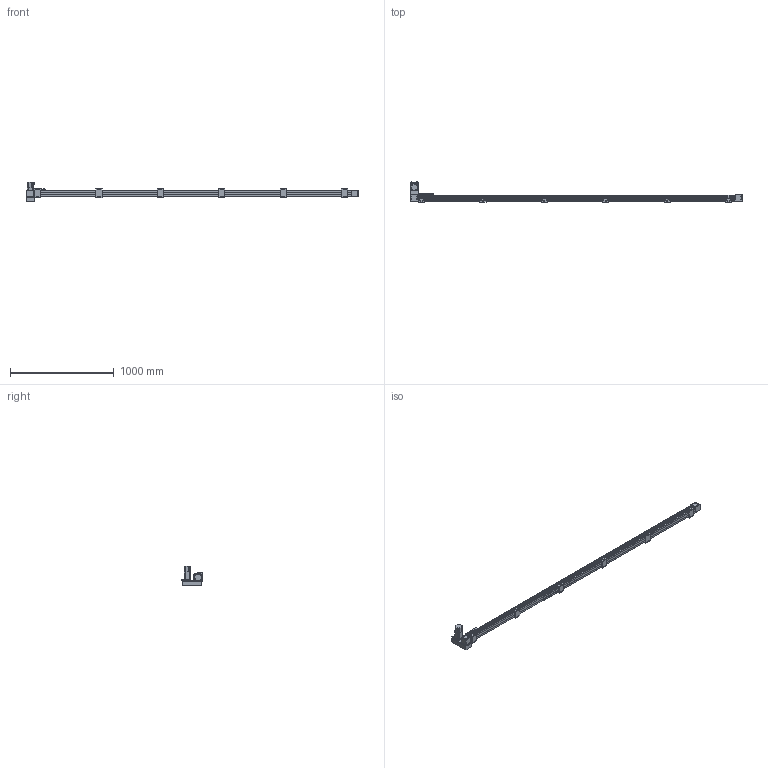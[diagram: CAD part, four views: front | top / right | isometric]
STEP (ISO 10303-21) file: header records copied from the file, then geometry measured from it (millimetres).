
FILE_DESCRIPTION(/* description */ ('STEP AP214'),/* implementation_level */ '2;1');
FILE_NAME(/* name */ 'SK60-P13-S2900-LU-T40-C1-N(0)',/* time_stamp */ '2023-04-06T04:49:06+02:00',/* author */ ('License CC BY-ND 4.0'),/* organization */ ('CADENAS'),/* preprocessor_version */ 'ST-DEVELOPER v19.3',/* originating_system */ 'PARTsolutions',/* authorisation */ ' ');
FILE_SCHEMA (('PROCESS_PLANNING_SCHEMA','AUTOMOTIVE_DESIGN {1 0 10303 214 3 1 1}'));
Length unit declared in the file: millimetre
Products named in the file (10): SK60-P13-S2900-LU-T40-C1-N(0); PSC140-sensor; SK60-S450_seat; SK60-S450-BL-C1_slider; SK60_body3; SK60_body6; SK60-BL_body2; T40-p1; SK60-LU_fb; SK60-S2900-LU-C1_body
Assembly tree (20 placements, depth 2):
  SK60-P13-S2900-LU-T40-C1-N(0)
    PSC140-sensor  x3
    SK60-S450_seat  x6
    SK60-S450-BL-C1_slider
    SK60_body3  x3
    SK60_body6  x2
    SK60-BL_body2  x2
    T40-p1
    SK60-LU_fb
    SK60-S2900-LU-C1_body
Bounding box: 3205.5 x 201 x 189.7 mm (x, y, z)
Volume: 12065752.8 mm3; surface area: 1409472.6 mm2
Topology: 20 solids, 20 shells, 986 faces, 2440 edges, 1605 vertices
Faces by surface type: plane 620, cylinder 326, cone 38, torus 2
Full cylindrical faces by diameter (mm): 2.8 x3, 3.3 x4, 4 x2, 4.5 x30, 4.6 x3, 4.917 x32, 5 x6, 5.478 x4, 5.5 x35, 6.5 x12, 7 x2, 8 x4, 8.5 x4, 9.988 x4, 10 x24, 14 x1, 47 x3, 50 x2
Entity records: 18687 total; most frequent: DIRECTION 3192, CARTESIAN_POINT 3154, ORIENTED_EDGE 2940, EDGE_CURVE 1470, AXIS2_PLACEMENT_3D 1072, LINE 1048, VECTOR 1048, VERTEX_POINT 1034
